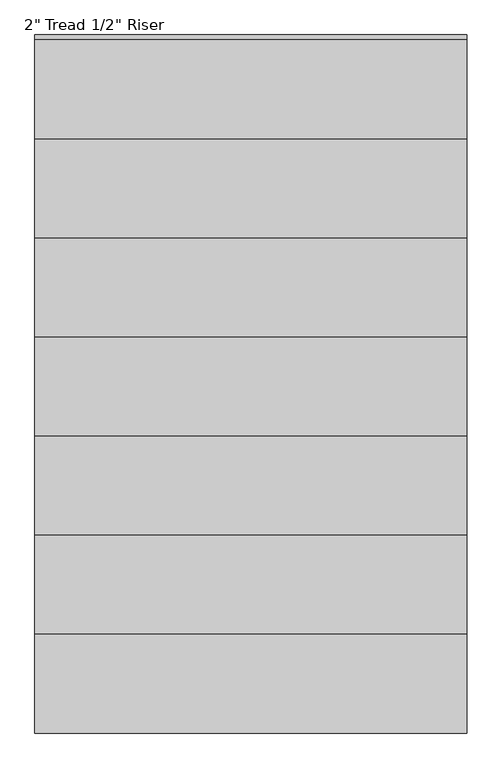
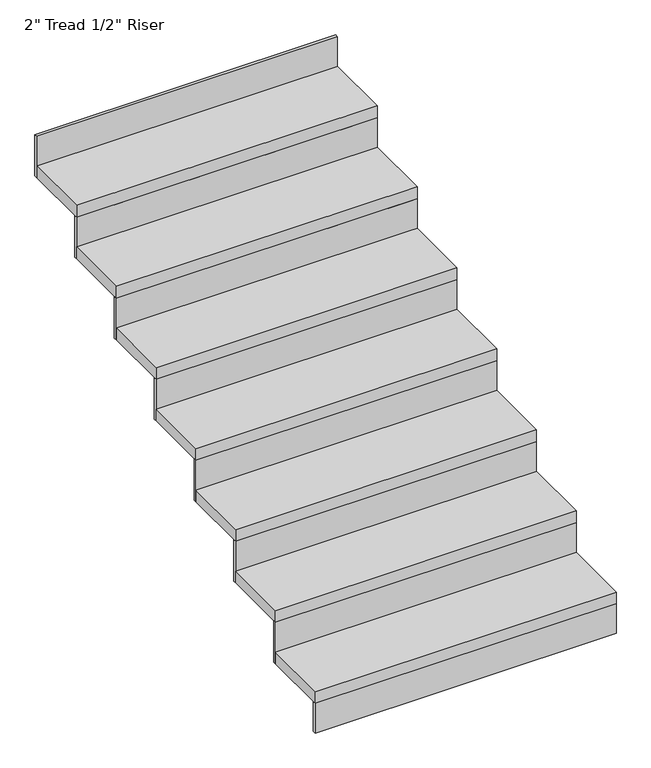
"""IFC4 building model written with IfcOpenShell, lengths in millimetres: stair flight geometry."""

from ifc_helpers import new_model, si_unit, frame, origin, origin_with_axes, place, context, project, spatial, polyline, outline, extrude, source, transform, mapped, element, save


def stair_flight_f8b69583(model_context):
    return source(origin(), model_context, "Body", "SweptSolid", [
        extrude(outline(polyline([(25887.1084875, 7994.7006), (25887.1084875, 7982.0006), (24667.9084875, 7982.0006), (24667.9084875, 7994.7006), (25887.1084875, 7994.7006)])), origin_with_axes(), (0.0, 0.0, 1.0), 127.0),
        extrude(outline(polyline([(24667.9084875, 8261.4006), (25887.1084875, 8261.4006), (25887.1084875, 7982.0006), (24667.9084875, 7982.0006), (24667.9084875, 8261.4006)])), frame((0.0, 0.0, 127.0), z_axis=(0.0, 0.0, 1.0), x_axis=(1.0, 0.0, 0.0)), (0.0, 0.0, 1.0), 50.8),
        extrude(outline(polyline([(25887.1084875, 8274.1006), (25887.1084875, 8261.4006), (24667.9084875, 8261.4006), (24667.9084875, 8274.1006), (25887.1084875, 8274.1006)])), frame((0.0, 0.0, 127.0), z_axis=(0.0, 0.0, 1.0), x_axis=(1.0, 0.0, 0.0)), (0.0, 0.0, 1.0), 177.8),
        extrude(outline(polyline([(24667.9084875, 8540.8006), (25887.1084875, 8540.8006), (25887.1084875, 8261.4006), (24667.9084875, 8261.4006), (24667.9084875, 8540.8006)])), frame((0.0, 0.0, 304.8), z_axis=(0.0, 0.0, 1.0), x_axis=(1.0, 0.0, 0.0)), (0.0, 0.0, 1.0), 50.8),
        extrude(outline(polyline([(25887.1084875, 8553.5006), (25887.1084875, 8540.8006), (24667.9084875, 8540.8006), (24667.9084875, 8553.5006), (25887.1084875, 8553.5006)])), frame((0.0, 0.0, 304.8), z_axis=(0.0, 0.0, 1.0), x_axis=(1.0, 0.0, 0.0)), (0.0, 0.0, 1.0), 177.8),
        extrude(outline(polyline([(24667.9084875, 8820.2006), (25887.1084875, 8820.2006), (25887.1084875, 8540.8006), (24667.9084875, 8540.8006), (24667.9084875, 8820.2006)])), frame((0.0, 0.0, 482.6), z_axis=(0.0, 0.0, 1.0), x_axis=(1.0, 0.0, 0.0)), (0.0, 0.0, 1.0), 50.8),
        extrude(outline(polyline([(25887.1084875, 8832.9006), (25887.1084875, 8820.2006), (24667.9084875, 8820.2006), (24667.9084875, 8832.9006), (25887.1084875, 8832.9006)])), frame((0.0, 0.0, 482.6), z_axis=(0.0, 0.0, 1.0), x_axis=(1.0, 0.0, 0.0)), (0.0, 0.0, 1.0), 177.8),
        extrude(outline(polyline([(24667.9084875, 9099.6006), (25887.1084875, 9099.6006), (25887.1084875, 8820.2006), (24667.9084875, 8820.2006), (24667.9084875, 9099.6006)])), frame((0.0, 0.0, 660.4), z_axis=(0.0, 0.0, 1.0), x_axis=(1.0, 0.0, 0.0)), (0.0, 0.0, 1.0), 50.8),
        extrude(outline(polyline([(25887.1084875, 9112.3006), (25887.1084875, 9099.6006), (24667.9084875, 9099.6006), (24667.9084875, 9112.3006), (25887.1084875, 9112.3006)])), frame((0.0, 0.0, 660.4), z_axis=(0.0, 0.0, 1.0), x_axis=(1.0, 0.0, 0.0)), (0.0, 0.0, 1.0), 177.8),
        extrude(outline(polyline([(24667.9084875, 9379.0006), (25887.1084875, 9379.0006), (25887.1084875, 9099.6006), (24667.9084875, 9099.6006), (24667.9084875, 9379.0006)])), frame((0.0, 0.0, 838.2), z_axis=(0.0, 0.0, 1.0), x_axis=(1.0, 0.0, 0.0)), (0.0, 0.0, 1.0), 50.8),
        extrude(outline(polyline([(25887.1084875, 9391.7006), (25887.1084875, 9379.0006), (24667.9084875, 9379.0006), (24667.9084875, 9391.7006), (25887.1084875, 9391.7006)])), frame((0.0, 0.0, 838.2), z_axis=(0.0, 0.0, 1.0), x_axis=(1.0, 0.0, 0.0)), (0.0, 0.0, 1.0), 177.8),
        extrude(outline(polyline([(24667.9084875, 9658.4006), (25887.1084875, 9658.4006), (25887.1084875, 9379.0006), (24667.9084875, 9379.0006), (24667.9084875, 9658.4006)])), frame((0.0, 0.0, 1016.0), z_axis=(0.0, 0.0, 1.0), x_axis=(1.0, 0.0, 0.0)), (0.0, 0.0, 1.0), 50.8),
        extrude(outline(polyline([(25887.1084875, 9671.1006), (25887.1084875, 9658.4006), (24667.9084875, 9658.4006), (24667.9084875, 9671.1006), (25887.1084875, 9671.1006)])), frame((0.0, 0.0, 1016.0), z_axis=(0.0, 0.0, 1.0), x_axis=(1.0, 0.0, 0.0)), (0.0, 0.0, 1.0), 177.8),
        extrude(outline(polyline([(25887.1084875, 9950.5006), (25887.1084875, 9937.8006), (24667.9084875, 9937.8006), (24667.9084875, 9950.5006), (25887.1084875, 9950.5006)])), frame((0.0, 0.0, 1193.8), z_axis=(0.0, 0.0, 1.0), x_axis=(1.0, 0.0, 0.0)), (0.0, 0.0, 1.0), 177.8),
        extrude(outline(polyline([(24667.9084875, 9937.8006), (25887.1084875, 9937.8006), (25887.1084875, 9658.4006), (24667.9084875, 9658.4006), (24667.9084875, 9937.8006)])), frame((0.0, 0.0, 1193.8), z_axis=(0.0, 0.0, 1.0), x_axis=(1.0, 0.0, 0.0)), (0.0, 0.0, 1.0), 50.8),
    ])


if __name__ == "__main__":
    model = new_model("IFC4")
    model_context = context("Model", 3, world=origin())
    ifc_project = project(units=[si_unit("LENGTHUNIT", "METRE", prefix="MILLI")], contexts=[model_context])
    site = spatial("IfcSite", under=ifc_project)
    building = spatial("IfcBuilding", under=site)
    placement = place(None, origin())
    stair_flight_shape = stair_flight_f8b69583(model_context)
    element("IfcStairFlight", 1, ObjectType="2\" Tread 1/2\" Riser", at=placement, inside=building, context=model_context, shape_type="MappedRepresentation", body=[
        mapped(stair_flight_shape, transform((0.0, 0.0, 0.0), x_axis=(1.0, 0.0, 0.0), y_axis=(0.0, 1.0, 0.0), z_axis=(0.0, 0.0, 1.0))),
    ])
    save(model, "model.ifc")
